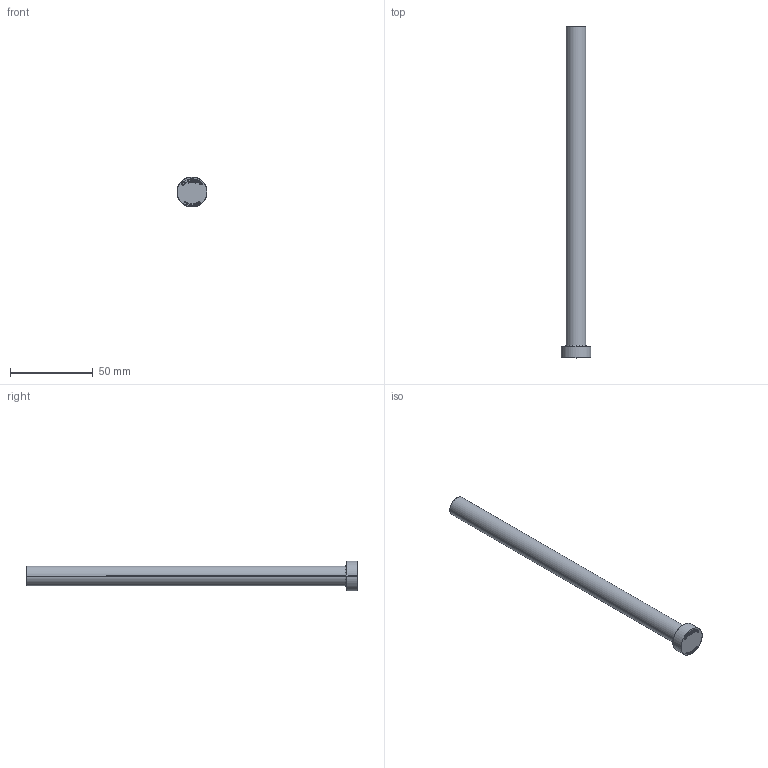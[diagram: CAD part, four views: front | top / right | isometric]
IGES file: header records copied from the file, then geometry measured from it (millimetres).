
Start section: SolidWorks IGES file using analytic representation for surfaces
Global section: file name: C:\Users\User\Downloads\Matripeça 31-08 tar\PB - PINO EXTRATOR TIPO _B_ (CATÁLOGO)\PB12,0\PB12,0200.IGS; native system: SolidWorks 2024; preprocessor: SolidWorks 2024; author: User; date: 260901.151139; units: millimetre
Bounding box: 18 x 200 x 18 mm (x, y, z)
Surface area: 8182.2 mm2 (no closed solid volume)
Topology: 0 solids, 0 shells, 396 faces, 4017 edges, 4017 vertices
Faces by surface type: bspline 382, revolution 14
